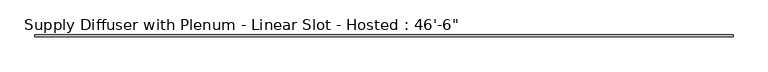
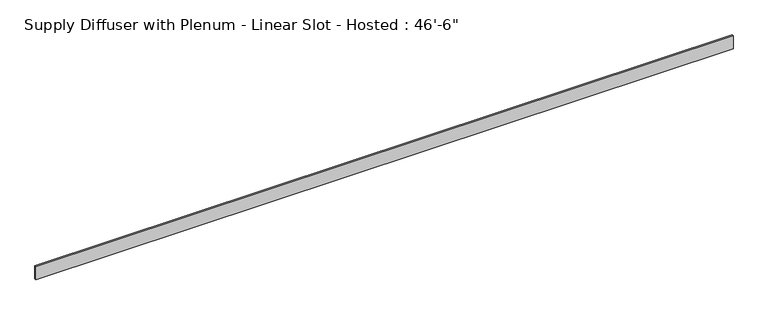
"""IFC4 building model written with IfcOpenShell, lengths in millimetres: air terminal geometry."""

from ifc_helpers import new_model, si_unit, frame, origin, place, context, project, spatial, polyline, outline, extrude, source, transform, mapped, element, save


def air_terminal_2f0d0d18(model_context):
    return source(origin(), model_context, "Body", "SweptSolid", [
        extrude(outline(polyline([(7086.6, 19.05), (7086.6, -19.05), (-7086.6, -19.05), (-7086.6, 19.05), (7086.6, 19.05)])), frame((0.0, 0.0, -279.4), z_axis=(0.0, 0.0, 1.0), x_axis=(1.0, 0.0, 0.0)), (0.0, 0.0, 1.0), 279.4),
    ])


if __name__ == "__main__":
    model = new_model("IFC4")
    model_context = context("Model", 3, world=origin())
    ifc_project = project(units=[si_unit("LENGTHUNIT", "METRE", prefix="MILLI")], contexts=[model_context])
    site = spatial("IfcSite", under=ifc_project)
    building = spatial("IfcBuilding", under=site)
    placement = place(None, origin())
    air_terminal_shape = air_terminal_2f0d0d18(model_context)
    element("IfcAirTerminal", 1, ObjectType="Supply Diffuser with Plenum - Linear Slot - Hosted : 46'-6\"", at=placement, inside=building, context=model_context, shape_type="MappedRepresentation", body=[
        mapped(air_terminal_shape, transform((0.0, 0.0, 0.0), x_axis=(1.0, 0.0, 0.0), y_axis=(0.0, 1.0, 0.0), z_axis=(0.0, 0.0, 1.0))),
    ])
    save(model, "model.ifc")
